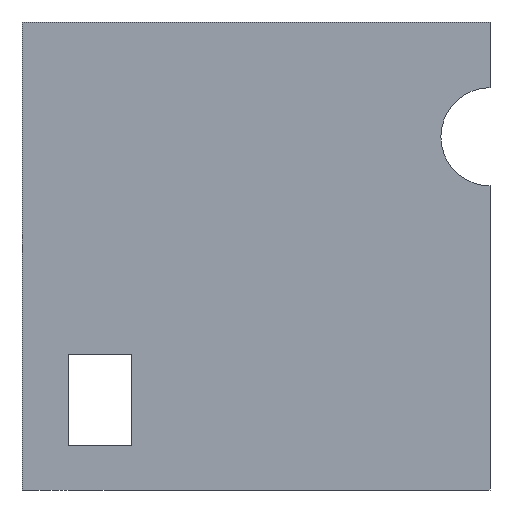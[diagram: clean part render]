
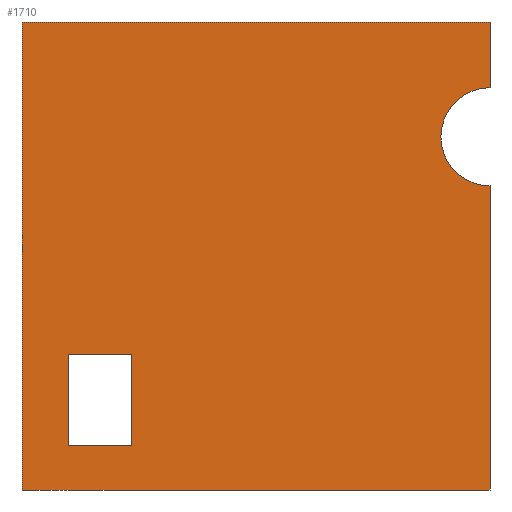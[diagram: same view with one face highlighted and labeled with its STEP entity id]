
A CAD part, front view. The second image highlights one B-rep face of the part: STEP entity #1710.
In plain terms, the highlighted planar face has unit normal (0, -1, 0).
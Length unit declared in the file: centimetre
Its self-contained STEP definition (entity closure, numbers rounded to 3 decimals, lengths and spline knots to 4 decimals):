
#18 = CARTESIAN_POINT ( 'NONE',  ( 1000., 0., 1000. ) ) ;
#27 = DIRECTION ( 'NONE',  ( 0., 0., -1. ) ) ;
#37 = CARTESIAN_POINT ( 'NONE',  ( 0., 0., 1000. ) ) ;
#40 = ORIENTED_EDGE ( 'NONE', *, *, #1052, .F. ) ;
#52 = VECTOR ( 'NONE', #672, 100. ) ;
#57 = LINE ( 'NONE', #1737, #103 ) ;
#103 = VECTOR ( 'NONE', #474, 100. ) ;
#116 = ORIENTED_EDGE ( 'NONE', *, *, #1664, .T. ) ;
#127 = CARTESIAN_POINT ( 'NONE',  ( 0., 0., 1000. ) ) ;
#135 = LINE ( 'NONE', #700, #52 ) ;
#149 = FACE_OUTER_BOUND ( 'NONE', #613, .T. ) ;
#150 = EDGE_CURVE ( 'NONE', #1397, #559, #1264, .T. ) ;
#163 = EDGE_CURVE ( 'NONE', #1056, #830, #985, .T. ) ;
#166 = ORIENTED_EDGE ( 'NONE', *, *, #1147, .F. ) ;
#170 = CARTESIAN_POINT ( 'NONE',  ( 1000., 0., 859.6607 ) ) ;
#215 = CARTESIAN_POINT ( 'NONE',  ( 0., 0., 0. ) ) ;
#255 = ORIENTED_EDGE ( 'NONE', *, *, #1157, .F. ) ;
#265 = CARTESIAN_POINT ( 'NONE',  ( 99.4989, 0., 94.9387 ) ) ;
#274 = PLANE ( 'NONE',  #929 ) ;
#286 = DIRECTION ( 'NONE',  ( 0., 0., 1. ) ) ;
#302 = DIRECTION ( 'NONE',  ( 0., 0., -1. ) ) ;
#307 = EDGE_CURVE ( 'NONE', #1056, #988, #346, .T. ) ;
#323 = EDGE_CURVE ( 'NONE', #1397, #1223, #777, .T. ) ;
#334 = VECTOR ( 'NONE', #302, 100. ) ;
#337 = VECTOR ( 'NONE', #27, 100. ) ;
#346 = LINE ( 'NONE', #1470, #1438 ) ;
#437 = EDGE_CURVE ( 'NONE', #811, #822, #540, .T. ) ;
#474 = DIRECTION ( 'NONE',  ( -1., 0., 0. ) ) ;
#510 = LINE ( 'NONE', #797, #569 ) ;
#540 = LINE ( 'NONE', #265, #855 ) ;
#557 = FACE_BOUND ( 'NONE', #627, .T. ) ;
#559 = VERTEX_POINT ( 'NONE', #170 ) ;
#569 = VECTOR ( 'NONE', #1187, 100. ) ;
#574 = DIRECTION ( 'NONE',  ( 0., 1., 0. ) ) ;
#613 = EDGE_LOOP ( 'NONE', ( #1204, #1215, #40, #1594, #935, #116 ) ) ;
#627 = EDGE_LOOP ( 'NONE', ( #1822, #1626, #166, #255 ) ) ;
#648 = VECTOR ( 'NONE', #1460, 100. ) ;
#672 = DIRECTION ( 'NONE',  ( 1., 0., 0. ) ) ;
#700 = CARTESIAN_POINT ( 'NONE',  ( 99.4989, 0., 94.9387 ) ) ;
#777 = LINE ( 'NONE', #898, #648 ) ;
#797 = CARTESIAN_POINT ( 'NONE',  ( 233.911, 0., 94.9387 ) ) ;
#811 = VERTEX_POINT ( 'NONE', #1493 ) ;
#822 = VERTEX_POINT ( 'NONE', #1604 ) ;
#830 = VERTEX_POINT ( 'NONE', #897 ) ;
#855 = VECTOR ( 'NONE', #1648, 100. ) ;
#873 = CARTESIAN_POINT ( 'NONE',  ( 233.911, 0., 94.9387 ) ) ;
#897 = CARTESIAN_POINT ( 'NONE',  ( 0., 0., 0. ) ) ;
#898 = CARTESIAN_POINT ( 'NONE',  ( 1000., 0., 1000. ) ) ;
#929 = AXIS2_PLACEMENT_3D ( 'NONE', #127, #1108, #286 ) ;
#935 = ORIENTED_EDGE ( 'NONE', *, *, #163, .T. ) ;
#985 = LINE ( 'NONE', #1552, #334 ) ;
#988 = VERTEX_POINT ( 'NONE', #1563 ) ;
#1052 = EDGE_CURVE ( 'NONE', #988, #559, #1523, .T. ) ;
#1056 = VERTEX_POINT ( 'NONE', #37 ) ;
#1064 = DIRECTION ( 'NONE',  ( 1., 0., 0. ) ) ;
#1100 = CARTESIAN_POINT ( 'NONE',  ( 233.911, 0., 289.9925 ) ) ;
#1108 = DIRECTION ( 'NONE',  ( 0., 1., 0. ) ) ;
#1122 = DIRECTION ( 'NONE',  ( 0., 0., 1. ) ) ;
#1147 = EDGE_CURVE ( 'NONE', #1263, #811, #57, .T. ) ;
#1157 = EDGE_CURVE ( 'NONE', #1488, #1263, #510, .T. ) ;
#1187 = DIRECTION ( 'NONE',  ( 0., 0., 1. ) ) ;
#1204 = ORIENTED_EDGE ( 'NONE', *, *, #323, .F. ) ;
#1215 = ORIENTED_EDGE ( 'NONE', *, *, #150, .T. ) ;
#1223 = VERTEX_POINT ( 'NONE', #1320 ) ;
#1263 = VERTEX_POINT ( 'NONE', #1100 ) ;
#1264 = CIRCLE ( 'NONE', #1771, 104.9314 ) ;
#1267 = CARTESIAN_POINT ( 'NONE',  ( 1000., 0., 754.7292 ) ) ;
#1318 = EDGE_CURVE ( 'NONE', #822, #1488, #135, .T. ) ;
#1320 = CARTESIAN_POINT ( 'NONE',  ( 1000., 0., 0. ) ) ;
#1328 = LINE ( 'NONE', #215, #1371 ) ;
#1371 = VECTOR ( 'NONE', #1064, 100. ) ;
#1397 = VERTEX_POINT ( 'NONE', #1539 ) ;
#1438 = VECTOR ( 'NONE', #1622, 100. ) ;
#1460 = DIRECTION ( 'NONE',  ( 0., 0., -1. ) ) ;
#1470 = CARTESIAN_POINT ( 'NONE',  ( 0., 0., 1000. ) ) ;
#1488 = VERTEX_POINT ( 'NONE', #873 ) ;
#1493 = CARTESIAN_POINT ( 'NONE',  ( 99.4989, 0., 289.9925 ) ) ;
#1523 = LINE ( 'NONE', #18, #337 ) ;
#1539 = CARTESIAN_POINT ( 'NONE',  ( 1000., 0., 649.7978 ) ) ;
#1552 = CARTESIAN_POINT ( 'NONE',  ( 0., 0., 1000. ) ) ;
#1563 = CARTESIAN_POINT ( 'NONE',  ( 1000., 0., 1000. ) ) ;
#1594 = ORIENTED_EDGE ( 'NONE', *, *, #307, .F. ) ;
#1604 = CARTESIAN_POINT ( 'NONE',  ( 99.4989, 0., 94.9387 ) ) ;
#1622 = DIRECTION ( 'NONE',  ( 1., 0., 0. ) ) ;
#1626 = ORIENTED_EDGE ( 'NONE', *, *, #437, .F. ) ;
#1648 = DIRECTION ( 'NONE',  ( 0., 0., -1. ) ) ;
#1664 = EDGE_CURVE ( 'NONE', #830, #1223, #1328, .T. ) ;
#1710 = ADVANCED_FACE ( 'NONE', ( #557, #149 ), #274, .F. ) ;
#1737 = CARTESIAN_POINT ( 'NONE',  ( 99.4989, 0., 289.9925 ) ) ;
#1771 = AXIS2_PLACEMENT_3D ( 'NONE', #1267, #574, #1122 ) ;
#1822 = ORIENTED_EDGE ( 'NONE', *, *, #1318, .F. ) ;
